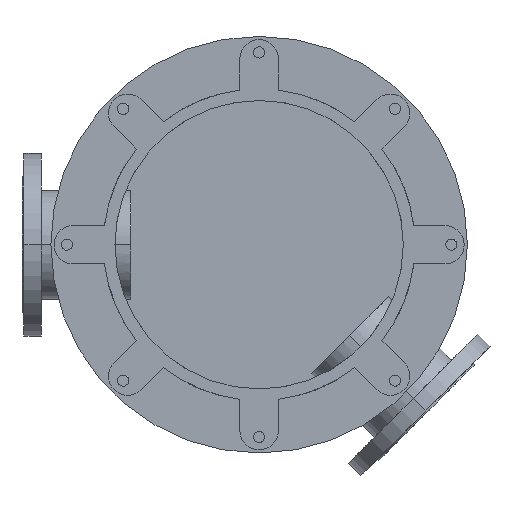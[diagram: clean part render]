
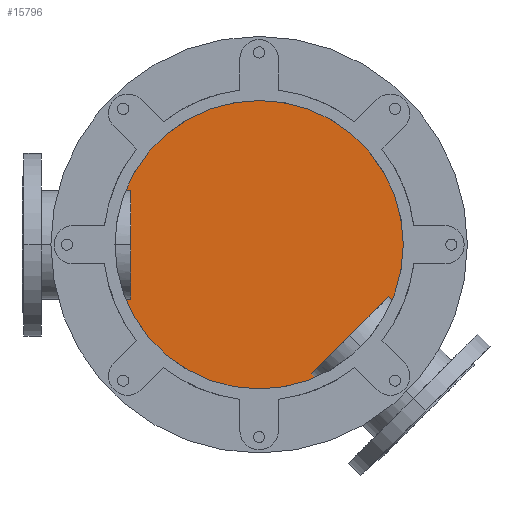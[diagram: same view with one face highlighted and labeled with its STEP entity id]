
A CAD part, front view. The second image highlights one B-rep face of the part: STEP entity #15796.
In plain terms, the highlighted planar face has unit normal (0, -1, 0).
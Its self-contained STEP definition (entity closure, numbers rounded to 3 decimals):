
#4407=CARTESIAN_POINT('',(0.,1004.,0.));
#4408=DIRECTION('',(0.,-1.,0.));
#4409=DIRECTION('',(0.,0.,1.));
#4410=AXIS2_PLACEMENT_3D('',#4407,#4408,#4409);
#4534=CARTESIAN_POINT('',(0.,1004.,0.));
#4535=DIRECTION('',(0.,-1.,0.));
#4536=DIRECTION('',(0.,0.,-1.));
#4537=AXIS2_PLACEMENT_3D('',#4534,#4535,#4536);
#9724=CARTESIAN_POINT('',(0.,1004.,240.));
#9725=CARTESIAN_POINT('',(0.,1004.,-240.));
#9726=VERTEX_POINT('',#9724);
#9727=VERTEX_POINT('',#9725);
#15786=CARTESIAN_POINT('',(0.,1004.,0.));
#15787=DIRECTION('',(0.,1.,0.));
#15788=DIRECTION('',(0.,0.,-1.));
#15789=AXIS2_PLACEMENT_3D('',#15786,#15787,#15788);
#15790=PLANE('',#15789);
#15791=ORIENTED_EDGE('',*,*,#15770,.F.);
#15793=ORIENTED_EDGE('',*,*,#15792,.F.);
#15794=EDGE_LOOP('',(#15791,#15793));
#15795=FACE_OUTER_BOUND('',#15794,.F.);
#15796=ADVANCED_FACE('',(#15795),#15790,.F.);
#4411=CIRCLE('',#4410,240.);
#4538=CIRCLE('',#4537,240.);
#15770=EDGE_CURVE('',#9726,#9727,#4411,.T.);
#15792=EDGE_CURVE('',#9727,#9726,#4538,.T.);
